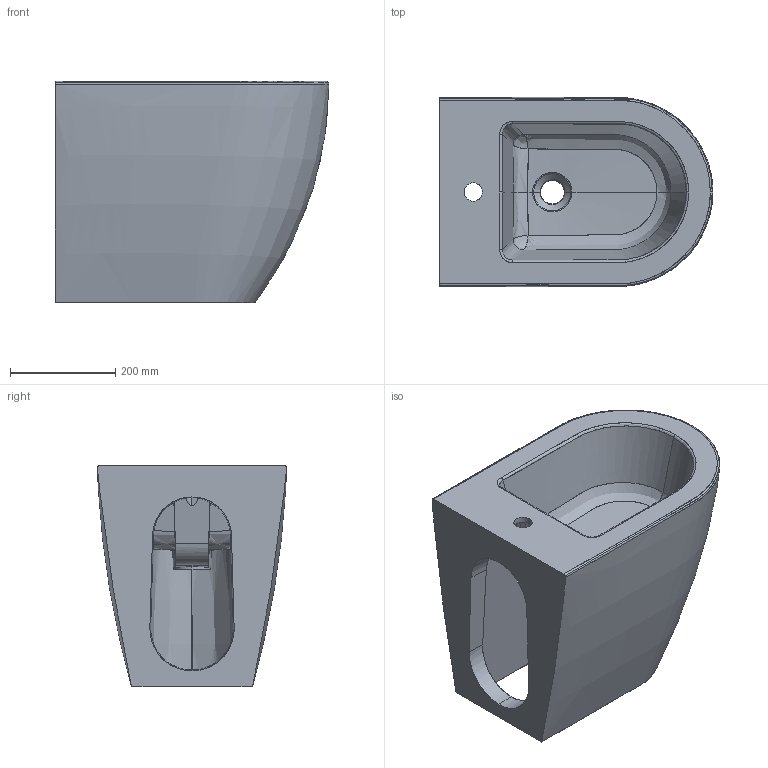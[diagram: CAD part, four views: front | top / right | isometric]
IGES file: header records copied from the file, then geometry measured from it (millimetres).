
Start section: START RECORD GO HERE.
Global section: file name: 7328_3D.igs; native system: DASSAULT SYSTEMES CATIA V5 R19 - www.3ds.com; preprocessor: CATIA Version 5 Release 19 SP 5 ; author: Luca; organization: DESKTOP-V7SON24; date: 20201028.152157; units: millimetre
Bounding box: 519.96 x 359.3 x 420 mm (x, y, z)
Surface area: 1213480.4 mm2 (no closed solid volume)
Topology: 0 solids, 0 shells, 71 faces, 372 edges, 370 vertices
Faces by surface type: bspline 54, revolution 9, plane 8
